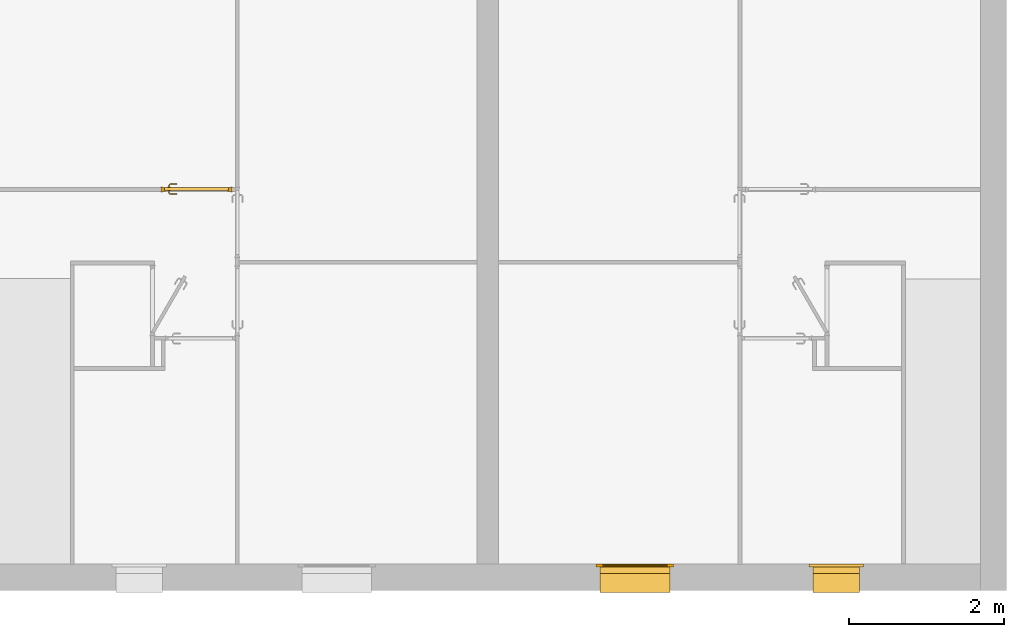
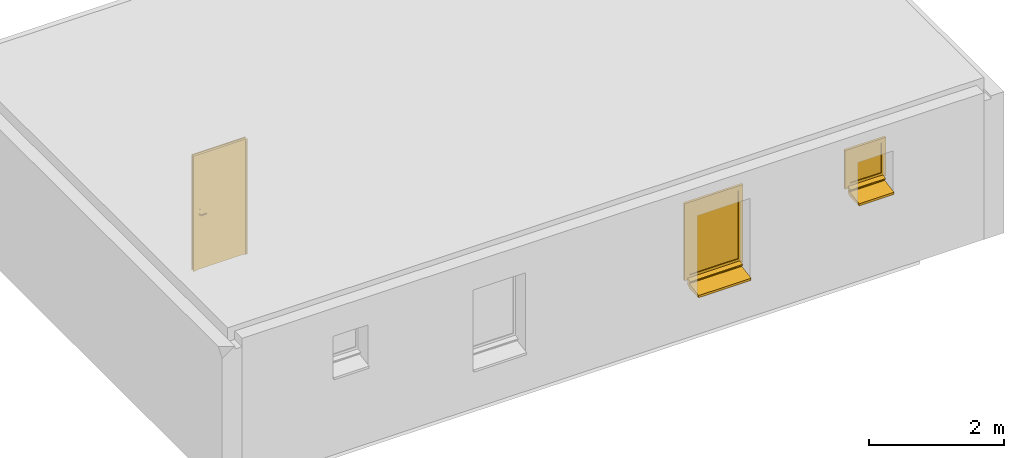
# One storey, part 7 of 14: 2 windows, 1 door.
"""IFC2X3 building model written with IfcOpenShell, lengths in millimetres."""

import ifcopenshell
import ifcopenshell.guid

model = None  # the IFC model being written
_history = None  # IfcOwnerHistory: only IFC2X3 demands one
_inside = {}  # id of a spatial element -> (the spatial element, [elements in it])
_under = {}  # id of a project, library or spatial element -> (it, [spatial elements below it])
_declared = {}  # id of a project -> (the project, [libraries it declares])
_typed = {}  # id of a type object -> (the type object, [elements of that type])
_made_of = {}  # id of a material, layer set ... -> (it, [elements and type objects made of it])


def new_model(schema):
    """Start an empty IFC model of exactly this schema.

    Asked for "IFC4X3", IfcOpenShell would pick the latest addendum, in which some entities
    have other attributes; the version numbers below select the first issue.
    IFC2X3 requires an IfcOwnerHistory on every rooted entity: one is made here for all.
    """
    global model, _history
    if schema == "IFC4X3":
        model = ifcopenshell.file(schema_version=(4, 3, 0, 0))
    else:
        model = ifcopenshell.file(schema=schema)
    _inside.clear()
    _under.clear()
    _declared.clear()
    _typed.clear()
    _made_of.clear()
    _history = None
    if model.schema == "IFC2X3":
        org = make("IfcOrganization", Name="unknown")
        user = make(
            "IfcPersonAndOrganization",
            ThePerson=make("IfcPerson", FamilyName="unknown"),
            TheOrganization=org,
        )
        app = make(
            "IfcApplication",
            ApplicationDeveloper=org,
            Version="unknown",
            ApplicationFullName="unknown",
            ApplicationIdentifier="unknown",
        )
        _history = make(
            "IfcOwnerHistory",
            OwningUser=user,
            OwningApplication=app,
            ChangeAction="ADDED",
            CreationDate=0,
        )
    return model


def make(cls, **values):
    """One entity of the class cls with the attributes given. An attribute that is None is left unset."""
    return model.create_entity(
        cls, **{name: value for name, value in values.items() if value is not None}
    )


def entity(cls, *values):
    """Any entity or typed value of the class cls, its attributes in the order of the schema. None: left unset."""
    e = model.create_entity(cls)
    for i, value in enumerate(values):
        if value is not None:
            e[i] = value
    return e


def rooted(cls, **values):
    """An entity with a GlobalId (a new one), such as an element, a storey or a relation."""
    return make(cls, GlobalId=ifcopenshell.guid.new(), OwnerHistory=_history, **values)


def si_unit(unit_type, name, prefix=None):
    """IfcSIUnit, for example si_unit("LENGTHUNIT", "METRE", prefix="MILLI")."""
    return make("IfcSIUnit", UnitType=unit_type, Prefix=prefix, Name=name)


def converted_unit(unit_type, name, factor, base, dimensions=None, offset=None):
    """IfcConversionBasedUnit, such as the inch: factor (a typed value) times the base unit."""
    return make(
        "IfcConversionBasedUnit"
        if offset is None
        else "IfcConversionBasedUnitWithOffset",
        ConversionOffset=offset,
        Dimensions=None
        if dimensions is None
        else entity("IfcDimensionalExponents", *dimensions),
        UnitType=unit_type,
        Name=name,
        ConversionFactor=make(
            "IfcMeasureWithUnit", ValueComponent=factor, UnitComponent=base
        ),
    )


def assignment(units):
    """IfcUnitAssignment: the units of a project."""
    return None if units is None else make("IfcUnitAssignment", Units=units)


def point(xyz):
    """IfcCartesianPoint."""
    return None if xyz is None else make("IfcCartesianPoint", Coordinates=xyz)


def direction(xyz):
    """IfcDirection."""
    return None if xyz is None else make("IfcDirection", DirectionRatios=xyz)


def frame(location, z_axis=None, x_axis=None):
    """IfcAxis2Placement3D, a coordinate frame: its origin and axes. An axis left out is left unset."""
    return make(
        "IfcAxis2Placement3D",
        Location=point(location),
        Axis=direction(z_axis),
        RefDirection=direction(x_axis),
    )


def origin():
    """The frame at (0, 0, 0) with its axes left unset."""
    return frame((0.0, 0.0, 0.0))


def origin_with_axes():
    """The frame at (0, 0, 0) with the z axis (0, 0, 1) and the x axis (1, 0, 0) written out."""
    return frame((0.0, 0.0, 0.0), z_axis=(0.0, 0.0, 1.0), x_axis=(1.0, 0.0, 0.0))


def place(relative_to, where):
    """IfcLocalPlacement: puts the frame where relative to a parent placement (None: the world)."""
    return make(
        "IfcLocalPlacement", PlacementRelTo=relative_to, RelativePlacement=where
    )


def context(
    kind, dimensions, precision=None, world=None, true_north=None, identifier=None
):
    """IfcGeometricRepresentationContext, for example the 3D "Model" context."""
    return make(
        "IfcGeometricRepresentationContext",
        ContextIdentifier=identifier,
        ContextType=kind,
        CoordinateSpaceDimension=dimensions,
        Precision=precision,
        WorldCoordinateSystem=world,
        TrueNorth=true_north,
    )


def project(units=None, contexts=None):
    """IfcProject with its units and contexts."""
    return rooted(
        "IfcProject",
        Name="project",
        RepresentationContexts=contexts,
        UnitsInContext=assignment(units),
    )


def spatial(cls, under=None, at=None, **own):
    """A site, building, storey or space (cls), placed at a placement, below another one or the project."""
    s = rooted(cls, ObjectPlacement=at, **own)
    if under is not None:
        _under.setdefault(under.id(), (under, []))[1].append(s)
    return s


def faces_of(points, faces, orient=None, outer=None):
    """IfcFace entities. A face is a list of loops; a loop is a list of indices into points, from 0.

    orient and outer hold one flag for each loop. By default every Orientation is true, the
    first loop of a face is its IfcFaceOuterBound and the others are IfcFaceBound.
    """
    made = []
    for i, loops in enumerate(faces):
        bounds = []
        for j, loop in enumerate(loops):
            is_outer = j == 0 if outer is None else outer[i][j]
            bounds.append(
                make(
                    "IfcFaceOuterBound" if is_outer else "IfcFaceBound",
                    Bound=make("IfcPolyLoop", Polygon=[points[k] for k in loop]),
                    Orientation=True if orient is None else orient[i][j],
                )
            )
        made.append(make("IfcFace", Bounds=bounds))
    return made


def faceted_brep(points, faces, orient=None, outer=None, voids=None):
    """IfcFacetedBrep: a solid bounded by flat faces; with voids (closed shells), ...WithVoids."""
    shared = [point(p) for p in points]
    hull = make("IfcClosedShell", CfsFaces=faces_of(shared, faces, orient, outer))
    if voids is None:
        return make("IfcFacetedBrep", Outer=hull)
    return make(
        "IfcFacetedBrepWithVoids",
        Outer=hull,
        Voids=[
            make(cls, CfsFaces=faces_of(shared, fs, o, b)) for cls, fs, o, b in voids
        ],
    )


def shape(context_of_items, identifier, shape_type, items):
    """IfcShapeRepresentation: the items that make up one representation, for example the "Body"."""
    return make(
        "IfcShapeRepresentation",
        ContextOfItems=context_of_items,
        RepresentationIdentifier=identifier,
        RepresentationType=shape_type,
        Items=items,
    )


def made_of(thing, what):
    """Note that an element or type object is made of a material, layer set ...; save() writes the relation."""
    if what is not None:
        _made_of.setdefault(what.id(), (what, []))[1].append(thing)
    return thing


def element(
    cls,
    number,
    at=None,
    inside=None,
    cuts=None,
    type_object=None,
    material=None,
    context=None,
    identifier="Body",
    shape_type=None,
    held_by="IfcProductDefinitionShape",
    body=None,
    shapes=None,
    **own,
):
    """One element of the class cls, such as IfcWall. Its Tag is "e" and its number.

    at: its placement. inside: the storey or other place that contains it. cuts: it is an
    opening in that element (IfcRelVoidsElement). A single representation is given by context,
    identifier, shape_type and body (its items); several are given by shapes. held_by: the class
    of the entity that holds the representations. save() writes the other relations.
    """
    e = rooted(cls, Tag="e%d" % number, ObjectPlacement=at, **own)
    if body is not None:
        shapes = [shape(context, identifier, shape_type, body)]
    if shapes is not None:
        e.Representation = make(held_by, Representations=shapes)
    if inside is not None:
        _inside.setdefault(inside.id(), (inside, []))[1].append(e)
    if cuts is not None:
        rooted(
            "IfcRelVoidsElement", RelatingBuildingElement=cuts, RelatedOpeningElement=e
        )
    if type_object is not None:
        _typed.setdefault(type_object.id(), (type_object, []))[1].append(e)
    return made_of(e, material)


def aggregate(whole, parts):
    """IfcRelAggregates: a whole, such as a stair, and the parts it consists of."""
    return rooted("IfcRelAggregates", RelatingObject=whole, RelatedObjects=parts)


def save(model, path):
    """Write the relations noted so far, then the file.

    IfcRelAggregates (storeys below a building ...), IfcRelContainedInSpatialStructure (elements
    in a storey), IfcRelDefinesByType, IfcRelAssociatesMaterial and IfcRelDeclares: one each for
    every whole, place, type object, material and project.
    """
    for whole, parts in _under.values():
        aggregate(whole, parts)
    for where, things in _inside.values():
        rooted(
            "IfcRelContainedInSpatialStructure",
            RelatedElements=things,
            RelatingStructure=where,
        )
    for kind, things in _typed.values():
        rooted("IfcRelDefinesByType", RelatedObjects=things, RelatingType=kind)
    for what, things in _made_of.values():
        rooted("IfcRelAssociatesMaterial", RelatedObjects=things, RelatingMaterial=what)
    for by, libraries in _declared.values():
        rooted("IfcRelDeclares", RelatingContext=by, RelatedDefinitions=libraries)
    model.write(path)


model = new_model("IFC2X3")

# Units and contexts
model_context = context("Model", 3, precision=1e-05, world=origin(), true_north=direction((0.0, 1.0, 0.0)))
ifc_project = project(units=[si_unit("LENGTHUNIT", "METRE", prefix="MILLI"), si_unit("AREAUNIT", "SQUARE_METRE"), si_unit("VOLUMEUNIT", "CUBIC_METRE"), converted_unit("PLANEANGLEUNIT", "DEGREE", entity("IfcPlaneAngleMeasure", 0.01745), si_unit("PLANEANGLEUNIT", "RADIAN"), dimensions=[0, 0, 0, 0, 0, 0, 0]), si_unit("SOLIDANGLEUNIT", "STERADIAN"), si_unit("MASSUNIT", "GRAM"), si_unit("TIMEUNIT", "SECOND"), si_unit("THERMODYNAMICTEMPERATUREUNIT", "DEGREE_CELSIUS"), si_unit("LUMINOUSINTENSITYUNIT", "LUMEN")], contexts=[model_context])

# Site, building, storey
placement = place(None, origin_with_axes())
site_placement = place(placement, frame((11636.08881703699, 2815.7442167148, 4.768371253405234e-06), z_axis=(0.0, 0.0, 1.0), x_axis=(1.0, 0.0, 0.0)))
site = spatial("IfcSite", under=ifc_project, at=site_placement, Name="Surface", CompositionType="ELEMENT")
building_placement = place(placement, origin_with_axes())
building = spatial("IfcBuilding", under=site, at=building_placement, Name="Default Building", CompositionType="ELEMENT")
storey_placement = place(building_placement, origin_with_axes())
storey = spatial("IfcBuildingStorey", under=building, at=storey_placement, Name="Plan étage", CompositionType="ELEMENT", Elevation=0.0)

# Windows
window_1_placement = place(storey_placement, frame((11636.08881703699, 2815.7442167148, 4.768371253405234e-06), z_axis=(0.0, 0.0, 1.0), x_axis=(1.0, 0.0, 0.0)))
element("IfcWindow", 1, at=window_1_placement, inside=storey, Name="IfcWindow - FR_1  Vantail Appui Béton:90x135", context=model_context, shape_type="Brep", body=[
    faceted_brep([(-3456.088805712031, -2490.742956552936, 4859.943730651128), (-2616.088831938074, -2500.765604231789, 4859.943730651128), (-2616.088831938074, -2490.742956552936, 4859.943730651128), (-3456.088805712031, -2500.765604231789, 4859.943730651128), (-2616.088831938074, -2490.742956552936, 3619.999987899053), (-3456.088805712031, -2500.765604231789, 3619.999987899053), (-3456.088805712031, -2490.742956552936, 3619.999987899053), (-2616.088831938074, -2500.765604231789, 3619.999987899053), (-3486.088806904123, -2595.744215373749, 3558.350367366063), (-3486.088806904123, -2515.744217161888, 3540.000004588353), (-3486.088806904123, -2595.744215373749, 3540.000004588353), (-3486.088806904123, -2515.744217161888, 3575.329942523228), (-2586.088830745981, -2595.744215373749, 3540.000004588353), (-2586.088830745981, -2515.744217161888, 3575.329942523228), (-2586.088830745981, -2595.744215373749, 3558.350367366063), (-2586.088830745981, -2515.744217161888, 3540.000004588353), (-3536.088818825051, -2515.744217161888, 4939.943713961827), (-3456.088805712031, -2515.744217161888, 4859.943730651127), (-2536.088818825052, -2515.744217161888, 4939.943713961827), (-3456.088805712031, -2515.744217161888, 3619.999987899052), (-3536.088818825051, -2515.744217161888, 3540.000004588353), (-2616.088831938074, -2515.744217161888, 3619.999987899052), (-2616.088831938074, -2515.744217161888, 4859.943730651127), (-2536.088818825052, -2515.744217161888, 3540.000004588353), (-2536.088818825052, -2475.744218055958, 4939.943713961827), (-2616.088831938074, -2475.744218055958, 4859.943730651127), (-3536.088818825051, -2475.744218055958, 4939.943713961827), (-2616.088831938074, -2475.744218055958, 3619.999987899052), (-2536.088818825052, -2475.744218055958, 3540.000004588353), (-3456.088805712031, -2475.744218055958, 3619.999987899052), (-3456.088805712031, -2475.744218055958, 4859.943730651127), (-3536.088818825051, -2475.744218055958, 3540.000004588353), (-3486.088806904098, -2565.744214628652, 3420.576363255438), (-3486.088806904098, -2845.744223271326, 3460.275791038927), (-3486.088806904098, -2565.744214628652, 3506.120806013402), (-3486.088806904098, -2845.744223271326, 3420.576363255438), (-3486.088806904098, -2515.744210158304, 3539.999998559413), (-3486.088806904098, -2515.744210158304, 3462.110744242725), (-3486.088806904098, -2565.744214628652, 3539.999998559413), (-2586.088830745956, -2565.744214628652, 3420.576363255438), (-2586.088830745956, -2845.744223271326, 3460.275791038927), (-2586.088830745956, -2845.744223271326, 3420.576363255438), (-2586.088830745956, -2565.744214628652, 3506.120806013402), (-2586.088830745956, -2515.744210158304, 3462.110744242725), (-2586.088830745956, -2565.744214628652, 3539.999998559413), (-2586.088830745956, -2515.744210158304, 3539.999998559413)], [[[0, 1, 2]], [[0, 3, 1]], [[4, 5, 6]], [[4, 7, 5]], [[3, 6, 5]], [[3, 0, 6]], [[1, 5, 7]], [[1, 3, 5]], [[2, 7, 4]], [[2, 1, 7]], [[0, 4, 6]], [[0, 2, 4]], [[8, 9, 10]], [[8, 11, 9]], [[12, 13, 14]], [[12, 15, 13]], [[11, 14, 13]], [[11, 8, 14]], [[9, 13, 15]], [[9, 11, 13]], [[10, 15, 12]], [[10, 9, 15]], [[8, 12, 14]], [[8, 10, 12]], [[16, 17, 18]], [[16, 19, 17]], [[19, 20, 21]], [[20, 19, 16]], [[22, 18, 17]], [[21, 18, 22]], [[21, 23, 18]], [[23, 21, 20]], [[24, 25, 26]], [[24, 27, 25]], [[27, 28, 29]], [[28, 27, 24]], [[30, 26, 25]], [[29, 26, 30]], [[29, 31, 26]], [[31, 29, 28]], [[21, 25, 27]], [[21, 22, 25]], [[19, 27, 29]], [[19, 21, 27]], [[17, 29, 30]], [[17, 19, 29]], [[22, 30, 25]], [[22, 17, 30]], [[18, 28, 24]], [[18, 23, 28]], [[16, 24, 26]], [[16, 18, 24]], [[20, 26, 31]], [[20, 16, 26]], [[23, 31, 28]], [[23, 20, 31]], [[32, 33, 34]], [[33, 32, 35]], [[32, 36, 37]], [[34, 36, 32]], [[36, 34, 38]], [[39, 40, 41]], [[39, 42, 40]], [[43, 44, 39]], [[44, 43, 45]], [[36, 44, 45]], [[36, 38, 44]], [[37, 45, 43]], [[37, 36, 45]], [[32, 43, 39]], [[32, 37, 43]], [[35, 39, 41]], [[35, 32, 39]], [[33, 41, 40]], [[33, 35, 41]], [[34, 40, 42]], [[34, 33, 40]], [[38, 42, 44]], [[38, 34, 42]]]),
])
window_2_placement = place(storey_placement, frame((11636.08881703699, 2815.7442167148, 4.768371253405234e-06), z_axis=(0.0, 0.0, 1.0), x_axis=(1.0, 0.0, 0.0)))
element("IfcWindow", 2, at=window_2_placement, inside=storey, Name="IfcWindow - FR_1  Vantail Appui Béton:60x65", context=model_context, shape_type="Brep", body=[
    faceted_brep([(-706.0888295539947, -2490.742956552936, 4859.943706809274), (-166.0888080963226, -2500.765604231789, 4859.943706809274), (-166.0888080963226, -2490.742956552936, 4859.943706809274), (-706.0888295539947, -2500.765604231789, 4859.943706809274), (-166.0888080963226, -2490.742956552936, 4320.000011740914), (-706.0888295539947, -2500.765604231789, 4320.000011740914), (-706.0888295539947, -2490.742956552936, 4320.000011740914), (-166.0888080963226, -2500.765604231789, 4320.000011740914), (-736.0888307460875, -2595.744215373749, 4258.350391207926), (-736.0888307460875, -2515.744217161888, 4239.999998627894), (-736.0888307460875, -2595.744215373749, 4239.999998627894), (-736.0888307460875, -2515.744217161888, 4275.329936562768), (-136.0888069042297, -2595.744215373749, 4239.999998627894), (-136.0888069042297, -2515.744217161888, 4275.329936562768), (-136.0888069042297, -2595.744215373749, 4258.350391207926), (-136.0888069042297, -2515.744217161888, 4239.999998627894), (-786.0888128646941, -2515.744217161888, 4939.943719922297), (-706.0888295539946, -2515.744217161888, 4859.943706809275), (-86.08882478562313, -2515.744217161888, 4939.943719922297), (-706.0888295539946, -2515.744217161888, 4320.000011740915), (-786.0888128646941, -2515.744217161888, 4239.999998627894), (-166.0888080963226, -2515.744217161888, 4320.000011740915), (-166.0888080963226, -2515.744217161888, 4859.943706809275), (-86.08882478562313, -2515.744217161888, 4239.999998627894), (-86.08882478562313, -2475.744218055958, 4939.943719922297), (-166.0888080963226, -2475.744218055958, 4859.943706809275), (-786.0888128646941, -2475.744218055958, 4939.943719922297), (-166.0888080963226, -2475.744218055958, 4320.000011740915), (-86.08882478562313, -2475.744218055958, 4239.999998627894), (-706.0888295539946, -2475.744218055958, 4859.943706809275), (-706.0888295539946, -2475.744218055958, 4320.000011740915), (-786.0888128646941, -2475.744218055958, 4239.999998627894), (-736.0888307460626, -2565.744214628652, 4120.576363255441), (-736.0888307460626, -2845.744223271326, 4160.275791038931), (-736.0888307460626, -2565.744214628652, 4206.120806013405), (-736.0888307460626, -2845.744223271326, 4120.576363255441), (-736.0888307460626, -2515.744210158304, 4239.999998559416), (-736.0888307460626, -2515.744210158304, 4162.110744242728), (-736.0888307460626, -2565.744214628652, 4239.999998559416), (-136.0888069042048, -2565.744214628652, 4120.576363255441), (-136.0888069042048, -2845.744223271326, 4160.275791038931), (-136.0888069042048, -2845.744223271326, 4120.576363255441), (-136.0888069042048, -2565.744214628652, 4206.120806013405), (-136.0888069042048, -2515.744210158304, 4162.110744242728), (-136.0888069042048, -2565.744214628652, 4239.999998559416), (-136.0888069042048, -2515.744210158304, 4239.999998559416)], [[[0, 1, 2]], [[0, 3, 1]], [[4, 5, 6]], [[4, 7, 5]], [[3, 6, 5]], [[3, 0, 6]], [[1, 5, 7]], [[1, 3, 5]], [[2, 7, 4]], [[2, 1, 7]], [[0, 4, 6]], [[0, 2, 4]], [[8, 9, 10]], [[8, 11, 9]], [[12, 13, 14]], [[12, 15, 13]], [[11, 14, 13]], [[11, 8, 14]], [[9, 13, 15]], [[9, 11, 13]], [[10, 15, 12]], [[10, 9, 15]], [[8, 12, 14]], [[8, 10, 12]], [[16, 17, 18]], [[16, 19, 17]], [[19, 20, 21]], [[20, 19, 16]], [[22, 18, 17]], [[21, 18, 22]], [[21, 23, 18]], [[23, 21, 20]], [[24, 25, 26]], [[24, 27, 25]], [[27, 24, 28]], [[29, 26, 25]], [[30, 26, 29]], [[28, 30, 27]], [[30, 31, 26]], [[31, 30, 28]], [[21, 25, 27]], [[21, 22, 25]], [[19, 27, 30]], [[19, 21, 27]], [[17, 30, 29]], [[17, 19, 30]], [[22, 29, 25]], [[22, 17, 29]], [[18, 28, 24]], [[18, 23, 28]], [[16, 24, 26]], [[16, 18, 24]], [[20, 26, 31]], [[20, 16, 26]], [[23, 31, 28]], [[23, 20, 31]], [[32, 33, 34]], [[33, 32, 35]], [[32, 36, 37]], [[34, 36, 32]], [[36, 34, 38]], [[39, 40, 41]], [[39, 42, 40]], [[43, 44, 39]], [[44, 43, 45]], [[36, 44, 45]], [[36, 38, 44]], [[37, 45, 43]], [[37, 36, 45]], [[32, 43, 39]], [[32, 37, 43]], [[35, 39, 41]], [[35, 32, 39]], [[33, 41, 40]], [[33, 35, 41]], [[34, 40, 42]], [[34, 33, 40]], [[38, 42, 44]], [[38, 34, 42]]]),
])

# Door
door_placement = place(storey_placement, frame((11636.08881703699, 2815.7442167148, 4.768371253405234e-06), z_axis=(0.0, 0.0, 1.0), x_axis=(1.0, 0.0, 0.0)))
element("IfcDoor", 3, at=door_placement, inside=storey, Name="IfcDoor - Int. Simple:PP (0.83m x 2.04m)", context=model_context, shape_type="Brep", body=[
    faceted_brep([(-9131.088821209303, 2389.255782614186, 2740.000042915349), (-9161.088822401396, 2384.255783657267, 2740.000042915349), (-9161.088822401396, 2389.255782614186, 2740.000042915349), (-9131.088821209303, 2384.255783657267, 2740.000042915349), (-8261.088816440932, 2389.255782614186, 2740.000042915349), (-8231.088815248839, 2384.255783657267, 2740.000042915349), (-8261.088816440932, 2384.255783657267, 2740.000042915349), (-8231.088815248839, 2389.255782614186, 2740.000042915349), (-9131.088821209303, 2389.255782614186, 4799.99998569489), (-8261.088816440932, 2384.255783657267, 4799.99998569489), (-9131.088821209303, 2384.255783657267, 4799.99998569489), (-8261.088816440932, 2389.255782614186, 4799.99998569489), (-9161.088822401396, 2384.255783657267, 4829.99995708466), (-8231.088815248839, 2389.255782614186, 4829.99995708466), (-9161.088822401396, 2389.255782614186, 4829.99995708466), (-8231.088815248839, 2384.255783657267, 4829.99995708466), (-9131.088821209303, 2334.25578291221, 4799.99998569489), (-8261.088816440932, 2329.255783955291, 4799.99998569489), (-9131.088821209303, 2329.255783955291, 4799.99998569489), (-8261.088816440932, 2334.25578291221, 4799.99998569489), (-9161.088822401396, 2329.255783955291, 4829.99995708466), (-8231.088815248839, 2334.25578291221, 4829.99995708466), (-9161.088822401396, 2334.25578291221, 4829.99995708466), (-8231.088815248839, 2329.255783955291, 4829.99995708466), (-8231.088815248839, 2334.25578291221, 2740.000042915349), (-8231.088815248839, 2329.255783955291, 2740.000042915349), (-8261.088816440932, 2329.255783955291, 2740.000042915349), (-8261.088816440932, 2334.25578291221, 2740.000042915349), (-9131.088821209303, 2334.25578291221, 2740.000042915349), (-9131.088821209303, 2329.255783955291, 2740.000042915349), (-9161.088822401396, 2329.255783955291, 2740.000042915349), (-9161.088822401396, 2334.25578291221, 2740.000042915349), (-9111.088810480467, 2384.255783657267, 4780.000004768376), (-8281.088827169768, 2344.255783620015, 4780.000004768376), (-9111.088810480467, 2344.255783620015, 4780.000004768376), (-8281.088827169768, 2384.255783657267, 4780.000004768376), (-9096.088824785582, 2344.255783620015, 4765.000019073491), (-8296.088812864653, 2334.25578291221, 4765.000019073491), (-9096.088824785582, 2334.25578291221, 4765.000019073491), (-8296.088812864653, 2344.255783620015, 4765.000019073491), (-9146.088806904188, 2334.25578291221, 4814.999971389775), (-8246.088830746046, 2384.255783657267, 4814.999971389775), (-9146.088806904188, 2384.255783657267, 4814.999971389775), (-8246.088830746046, 2334.25578291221, 4814.999971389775), (-8281.088827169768, 2344.255783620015, 2740.000042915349), (-8281.088827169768, 2384.255783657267, 2740.000042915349), (-8296.088812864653, 2334.25578291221, 2740.000042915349), (-8296.088812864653, 2344.255783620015, 2740.000042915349), (-8246.088830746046, 2334.25578291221, 2740.000042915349), (-8246.088830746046, 2384.255783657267, 2740.000042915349), (-9111.088810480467, 2384.255783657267, 2740.000042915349), (-9146.088806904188, 2384.255783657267, 2740.000042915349), (-9111.088810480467, 2344.255783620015, 2740.000042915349), (-9096.088824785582, 2344.255783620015, 2740.000042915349), (-9096.088824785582, 2334.25578291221, 2740.000042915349), (-9146.088806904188, 2334.25578291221, 2740.000042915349), (-9111.088810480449, 2344.255783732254, 4779.999980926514), (-9111.088810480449, 2384.255782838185, 2740.000019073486), (-9111.088810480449, 2344.255783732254, 2740.000019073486), (-9111.088810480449, 2384.255782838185, 4779.999980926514), (-8281.08882716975, 2384.255782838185, 2740.000019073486), (-8281.08882716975, 2344.255783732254, 2740.000019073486), (-8281.08882716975, 2384.255782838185, 4779.999980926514), (-8281.08882716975, 2344.255783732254, 4779.999980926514), (-9035.24991184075, 2301.310592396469, 3732.219558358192), (-8993.146474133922, 2299.285301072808, 3732.121313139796), (-9036.927724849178, 2297.260002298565, 3732.219558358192), (-8998.643614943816, 2293.285296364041, 3732.999999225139), (-8992.323298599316, 2305.285298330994, 3732.999999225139), (-8951.043036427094, 2301.310592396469, 3732.219558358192), (-8951.043036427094, 2297.260002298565, 3732.219558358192), (-8951.043036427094, 2305.285298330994, 3732.999999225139), (-9033.603536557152, 2305.285298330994, 3732.999999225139), (-9038.574100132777, 2293.285296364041, 3732.999999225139), (-8951.043036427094, 2293.285296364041, 3732.999999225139), (-8951.043036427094, 2293.285296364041, 3747.000001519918), (-8998.64361308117, 2293.285296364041, 3747.000001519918), (-9038.574100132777, 2293.285296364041, 3747.000001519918), (-8951.043036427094, 2301.310592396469, 3747.780442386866), (-8993.146474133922, 2299.285301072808, 3747.878685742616), (-8951.043036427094, 2297.260002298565, 3747.780442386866), (-8992.3232855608, 2305.285298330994, 3747.000001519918), (-9035.24991184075, 2301.310592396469, 3747.780442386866), (-9036.927724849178, 2297.260002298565, 3747.780442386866), (-8951.043036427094, 2305.285298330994, 3747.000001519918), (-9033.603536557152, 2305.285298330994, 3747.000001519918), (-9049.063519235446, 2315.124203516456, 3732.219558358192), (-9045.088817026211, 2316.770576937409, 3732.999999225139), (-9057.088818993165, 2311.800015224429, 3732.999999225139), (-9053.11411678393, 2313.446392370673, 3732.219558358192), (-9057.088818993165, 2311.800015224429, 3747.000001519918), (-9053.11411678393, 2313.446392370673, 3747.780442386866), (-9045.088817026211, 2316.770576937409, 3747.000001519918), (-9049.063519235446, 2315.124203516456, 3747.780442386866), (-9049.063519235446, 2339.255782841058, 3732.219558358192), (-9045.088817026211, 2339.255782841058, 3732.999999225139), (-9053.11411678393, 2339.255782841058, 3732.219558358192), (-9057.088818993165, 2339.255782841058, 3732.999999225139), (-9057.088818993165, 2339.255782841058, 3747.000001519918), (-9053.11411678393, 2339.255782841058, 3747.780442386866), (-9049.063519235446, 2339.255782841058, 3747.780442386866), (-9045.088817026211, 2339.255782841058, 3747.000001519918), (-8951.070178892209, 2435.283945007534, 3732.999999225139), (-9038.711608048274, 2435.283945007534, 3747.000001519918), (-8951.070178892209, 2435.283945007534, 3747.000001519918), (-8998.78112937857, 2435.283945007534, 3732.999999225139), (-9038.711608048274, 2435.283945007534, 3732.999999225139), (-8951.070178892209, 2427.258648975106, 3732.219558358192), (-8993.228799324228, 2429.283947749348, 3732.121313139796), (-8951.070178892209, 2431.30923907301, 3732.219558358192), (-8992.405612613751, 2423.283943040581, 3732.999999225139), (-9035.387421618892, 2427.258648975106, 3732.219558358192), (-9037.065232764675, 2431.30923907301, 3732.219558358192), (-8951.070178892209, 2423.283943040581, 3732.999999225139), (-9033.741046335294, 2423.283943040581, 3732.999999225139), (-8951.070178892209, 2423.283943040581, 3747.000001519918), (-8992.405612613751, 2423.283943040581, 3747.000001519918), (-9033.741046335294, 2423.283943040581, 3747.000001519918), (-9035.387421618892, 2427.258648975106, 3747.780442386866), (-8993.228799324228, 2429.283940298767, 3747.878685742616), (-9037.065232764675, 2431.30923907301, 3747.780442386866), (-8998.78112192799, 2435.283945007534, 3747.000001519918), (-8951.070178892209, 2427.258648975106, 3747.780442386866), (-8951.070178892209, 2431.30923907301, 3747.780442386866), (-9057.088818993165, 2416.906734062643, 3732.999999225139), (-9057.088818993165, 2416.906734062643, 3747.000001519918), (-9053.11411678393, 2415.26036064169, 3732.219558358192), (-9045.088817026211, 2411.936172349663, 3732.999999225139), (-9049.063519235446, 2413.582545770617, 3732.219558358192), (-9045.088817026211, 2411.936172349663, 3747.000001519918), (-9049.063519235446, 2413.582545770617, 3747.780442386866), (-9053.11411678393, 2415.26036064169, 3747.780442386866), (-9057.088818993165, 2389.255783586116, 3732.999999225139), (-9057.088818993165, 2389.255783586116, 3747.000001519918), (-9053.11411678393, 2389.255783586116, 3732.219558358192), (-9049.063519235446, 2389.255783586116, 3732.219558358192), (-9045.088817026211, 2389.255783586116, 3732.999999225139), (-9045.088817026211, 2389.255783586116, 3747.000001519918), (-9049.063519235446, 2389.255783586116, 3747.780442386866), (-9053.11411678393, 2389.255783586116, 3747.780442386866), (-9031.088818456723, 2339.255782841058, 3610.000003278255), (-9031.088818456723, 2344.255783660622, 3819.999996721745), (-9031.088818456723, 2339.255782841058, 3819.999996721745), (-9031.088818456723, 2344.255783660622, 3610.000003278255), (-9040.736057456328, 2344.255783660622, 3606.003981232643), (-9040.736057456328, 2339.255782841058, 3606.003981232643), (-9051.088818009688, 2339.255782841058, 3604.641016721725), (-9051.088818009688, 2344.255783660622, 3604.641016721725), (-9061.441582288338, 2339.255782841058, 3606.003981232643), (-9061.441582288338, 2344.255783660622, 3606.003981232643), (-9071.088817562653, 2339.255782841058, 3610.000003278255), (-9071.088817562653, 2344.255783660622, 3610.000003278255), (-9071.088817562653, 2344.255783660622, 3819.999996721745), (-9071.088817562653, 2339.255782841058, 3819.999996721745), (-9061.441582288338, 2344.255783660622, 3823.996018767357), (-9061.441582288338, 2339.255782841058, 3823.996018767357), (-9051.088818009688, 2339.255782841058, 3825.358983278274), (-9051.088818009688, 2344.255783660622, 3825.358983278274), (-9040.736057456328, 2339.255782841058, 3823.996018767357), (-9040.736057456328, 2344.255783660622, 3823.996018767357), (-9071.088817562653, 2384.255782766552, 3610.000003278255), (-9071.088817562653, 2389.255783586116, 3819.999996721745), (-9071.088817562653, 2389.255783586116, 3610.000003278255), (-9071.088817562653, 2384.255782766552, 3819.999996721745), (-9061.441582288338, 2389.255783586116, 3823.996018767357), (-9061.441582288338, 2384.255782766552, 3823.996018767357), (-9051.088818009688, 2384.255782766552, 3825.358983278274), (-9051.088818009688, 2389.255783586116, 3825.358983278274), (-9040.736057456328, 2384.255782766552, 3823.996018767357), (-9040.736057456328, 2389.255783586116, 3823.996018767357), (-9031.088818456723, 2384.255782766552, 3819.999996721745), (-9031.088818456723, 2389.255783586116, 3819.999996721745), (-9031.088818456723, 2384.255782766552, 3610.000003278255), (-9031.088818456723, 2389.255783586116, 3610.000003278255), (-9040.736057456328, 2389.255783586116, 3606.003981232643), (-9040.736057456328, 2384.255782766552, 3606.003981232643), (-9051.088818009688, 2384.255782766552, 3604.641016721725), (-9051.088818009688, 2389.255783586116, 3604.641016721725), (-9061.441582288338, 2384.255782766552, 3606.003981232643), (-9061.441582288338, 2389.255783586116, 3606.003981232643)], [[[0, 1, 2]], [[0, 3, 1]], [[4, 5, 6]], [[4, 7, 5]], [[8, 9, 10]], [[8, 11, 9]], [[12, 13, 14]], [[12, 15, 13]], [[15, 7, 13]], [[15, 5, 7]], [[11, 6, 9]], [[11, 4, 6]], [[0, 10, 3]], [[0, 8, 10]], [[12, 10, 15]], [[1, 10, 12]], [[10, 1, 3]], [[9, 15, 10]], [[6, 15, 9]], [[15, 6, 5]], [[1, 14, 2]], [[1, 12, 14]], [[13, 11, 14]], [[7, 11, 13]], [[11, 7, 4]], [[8, 14, 11]], [[0, 14, 8]], [[14, 0, 2]], [[16, 17, 18]], [[16, 19, 17]], [[20, 21, 22]], [[20, 23, 21]], [[23, 24, 21]], [[23, 25, 24]], [[19, 26, 17]], [[19, 27, 26]], [[27, 25, 26]], [[27, 24, 25]], [[28, 18, 29]], [[28, 16, 18]], [[20, 18, 23]], [[30, 18, 20]], [[18, 30, 29]], [[17, 23, 18]], [[26, 23, 17]], [[23, 26, 25]], [[30, 22, 31]], [[30, 20, 22]], [[21, 19, 22]], [[24, 19, 21]], [[19, 24, 27]], [[16, 22, 19]], [[28, 22, 16]], [[22, 28, 31]], [[28, 30, 31]], [[28, 29, 30]], [[32, 33, 34]], [[32, 35, 33]], [[36, 37, 38]], [[36, 39, 37]], [[40, 41, 42]], [[40, 43, 41]], [[35, 44, 33]], [[35, 45, 44]], [[39, 46, 37]], [[39, 47, 46]], [[47, 48, 46]], [[44, 48, 47]], [[45, 48, 44]], [[48, 45, 49]], [[43, 49, 41]], [[43, 48, 49]], [[41, 35, 42]], [[49, 35, 41]], [[35, 49, 45]], [[32, 42, 35]], [[50, 42, 32]], [[42, 50, 51]], [[50, 34, 52]], [[50, 32, 34]], [[33, 39, 34]], [[44, 39, 33]], [[39, 44, 47]], [[36, 34, 39]], [[53, 34, 36]], [[34, 53, 52]], [[53, 38, 54]], [[53, 36, 38]], [[40, 38, 43]], [[55, 38, 40]], [[38, 55, 54]], [[37, 43, 38]], [[46, 43, 37]], [[43, 46, 48]], [[55, 42, 51]], [[55, 40, 42]], [[54, 52, 53]], [[55, 52, 54]], [[55, 50, 52]], [[50, 55, 51]], [[56, 57, 58]], [[56, 59, 57]], [[58, 60, 61]], [[58, 57, 60]], [[61, 62, 63]], [[61, 60, 62]], [[63, 59, 56]], [[63, 62, 59]], [[59, 60, 57]], [[59, 62, 60]], [[56, 61, 63]], [[56, 58, 61]], [[64, 65, 66]], [[65, 67, 66]], [[65, 68, 69]], [[65, 69, 70]], [[71, 69, 68]], [[68, 64, 72]], [[64, 68, 65]], [[67, 73, 66]], [[67, 70, 74]], [[65, 70, 67]], [[74, 75, 67]], [[75, 73, 67]], [[76, 73, 75]], [[73, 76, 77]], [[78, 79, 80]], [[79, 81, 82]], [[79, 82, 83]], [[79, 83, 76]], [[76, 83, 77]], [[80, 76, 75]], [[78, 84, 81]], [[82, 81, 85]], [[80, 79, 76]], [[79, 78, 81]], [[84, 72, 85]], [[84, 68, 72]], [[68, 84, 71]], [[70, 75, 74]], [[70, 80, 75]], [[69, 80, 70]], [[69, 78, 80]], [[69, 84, 78]], [[84, 69, 71]], [[86, 72, 64]], [[86, 87, 72]], [[88, 66, 73]], [[88, 89, 66]], [[73, 90, 88]], [[73, 77, 90]], [[90, 83, 91]], [[90, 77, 83]], [[92, 82, 85]], [[92, 93, 82]], [[85, 87, 92]], [[85, 72, 87]], [[94, 87, 86]], [[94, 95, 87]], [[66, 86, 64]], [[89, 86, 66]], [[89, 94, 86]], [[94, 89, 96]], [[97, 89, 88]], [[97, 96, 89]], [[90, 97, 88]], [[90, 98, 97]], [[98, 91, 99]], [[98, 90, 91]], [[91, 93, 99]], [[83, 93, 91]], [[93, 83, 82]], [[99, 93, 100]], [[100, 92, 101]], [[100, 93, 92]], [[92, 95, 101]], [[92, 87, 95]], [[98, 96, 97]], [[99, 96, 98]], [[99, 94, 96]], [[100, 94, 99]], [[100, 95, 94]], [[95, 100, 101]], [[102, 103, 104]], [[105, 103, 102]], [[103, 105, 106]], [[107, 108, 109]], [[108, 110, 111]], [[108, 111, 112]], [[108, 112, 105]], [[105, 112, 106]], [[109, 105, 102]], [[107, 113, 110]], [[111, 110, 114]], [[109, 108, 105]], [[108, 107, 110]], [[115, 114, 113]], [[116, 114, 115]], [[114, 116, 117]], [[118, 119, 120]], [[119, 121, 120]], [[119, 116, 122]], [[119, 122, 123]], [[115, 122, 116]], [[116, 118, 117]], [[118, 116, 119]], [[121, 103, 120]], [[121, 123, 104]], [[119, 123, 121]], [[113, 122, 115]], [[107, 122, 113]], [[107, 123, 122]], [[109, 123, 107]], [[109, 104, 123]], [[104, 109, 102]], [[103, 124, 125]], [[103, 106, 124]], [[126, 106, 112]], [[126, 124, 106]], [[127, 111, 114]], [[127, 128, 111]], [[114, 129, 127]], [[114, 117, 129]], [[130, 117, 118]], [[130, 129, 117]], [[125, 120, 103]], [[125, 131, 120]], [[125, 132, 133]], [[125, 124, 132]], [[132, 126, 134]], [[132, 124, 126]], [[126, 128, 134]], [[112, 128, 126]], [[128, 112, 111]], [[134, 128, 135]], [[135, 127, 136]], [[135, 128, 127]], [[127, 137, 136]], [[127, 129, 137]], [[138, 129, 130]], [[138, 137, 129]], [[120, 130, 118]], [[131, 130, 120]], [[131, 138, 130]], [[138, 131, 139]], [[133, 131, 125]], [[133, 139, 131]], [[134, 133, 132]], [[134, 139, 133]], [[135, 139, 134]], [[135, 138, 139]], [[136, 138, 135]], [[138, 136, 137]], [[140, 141, 142]], [[140, 143, 141]], [[144, 140, 145]], [[144, 143, 140]], [[144, 146, 147]], [[144, 145, 146]], [[147, 148, 149]], [[147, 146, 148]], [[149, 150, 151]], [[149, 148, 150]], [[150, 152, 151]], [[150, 153, 152]], [[154, 153, 155]], [[154, 152, 153]], [[154, 156, 157]], [[154, 155, 156]], [[157, 158, 159]], [[157, 156, 158]], [[159, 142, 141]], [[159, 158, 142]], [[146, 150, 148]], [[146, 153, 150]], [[145, 153, 146]], [[145, 155, 153]], [[140, 155, 145]], [[140, 156, 155]], [[140, 158, 156]], [[158, 140, 142]], [[159, 154, 157]], [[141, 154, 159]], [[141, 152, 154]], [[141, 151, 152]], [[143, 151, 141]], [[144, 151, 143]], [[144, 149, 151]], [[149, 144, 147]], [[160, 161, 162]], [[160, 163, 161]], [[164, 163, 165]], [[164, 161, 163]], [[164, 166, 167]], [[164, 165, 166]], [[167, 168, 169]], [[167, 166, 168]], [[169, 170, 171]], [[169, 168, 170]], [[172, 171, 170]], [[172, 173, 171]], [[174, 172, 175]], [[174, 173, 172]], [[174, 176, 177]], [[174, 175, 176]], [[177, 178, 179]], [[177, 176, 178]], [[179, 160, 162]], [[179, 178, 160]], [[175, 178, 176]], [[172, 178, 175]], [[172, 160, 178]], [[170, 160, 172]], [[170, 163, 160]], [[168, 163, 170]], [[168, 165, 163]], [[165, 168, 166]], [[169, 164, 167]], [[171, 164, 169]], [[171, 161, 164]], [[171, 162, 161]], [[173, 162, 171]], [[174, 162, 173]], [[174, 179, 162]], [[179, 174, 177]]]),
])

save(model, "model.ifc")
